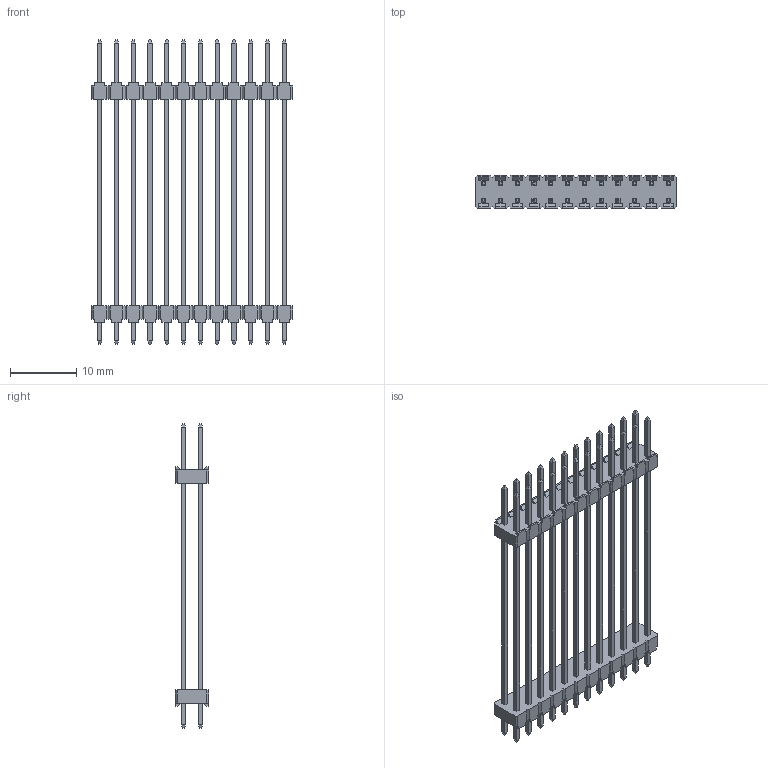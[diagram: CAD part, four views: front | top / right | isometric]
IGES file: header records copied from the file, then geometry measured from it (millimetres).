
Global section: file name: N:\GOLF_VI_2_54mm_UGII\9614XX-X04XX04-XX (TS-2185)\961424-8041704-XX.igs; native system: NX V3.0; preprocessor: UGS NX IGES V4.0; date: 20070618.105602; units: millimetre
Bounding box: 30.48 x 5 x 46.1 mm (x, y, z)
Surface area: 3492 mm2 (no closed solid volume)
Topology: 0 solids, 0 shells, 924 faces, 4849 edges, 4849 vertices
Faces by surface type: bspline 924
